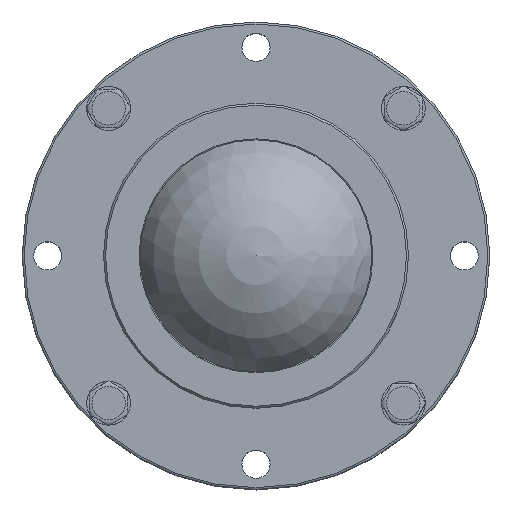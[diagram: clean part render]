
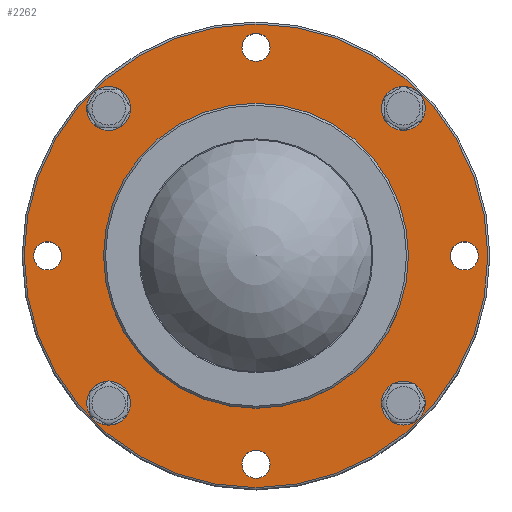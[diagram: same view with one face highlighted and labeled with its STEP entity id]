
A CAD part, top view. The second image highlights one B-rep face of the part: STEP entity #2262.
In plain terms, the highlighted planar face has unit normal (0, 0, 1).
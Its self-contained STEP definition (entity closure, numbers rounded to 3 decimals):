
#58=FACE_BOUND('',#787,.T.);
#59=FACE_BOUND('',#788,.T.);
#60=FACE_BOUND('',#789,.T.);
#61=FACE_BOUND('',#790,.T.);
#62=FACE_BOUND('',#791,.T.);
#63=FACE_BOUND('',#792,.T.);
#64=FACE_BOUND('',#793,.T.);
#65=FACE_BOUND('',#794,.T.);
#66=FACE_BOUND('',#795,.T.);
#468=PLANE('',#2542);
#606=FACE_OUTER_BOUND('',#786,.T.);
#786=EDGE_LOOP('',(#1966));
#787=EDGE_LOOP('',(#1967));
#788=EDGE_LOOP('',(#1968));
#789=EDGE_LOOP('',(#1969));
#790=EDGE_LOOP('',(#1970));
#791=EDGE_LOOP('',(#1971));
#792=EDGE_LOOP('',(#1972));
#793=EDGE_LOOP('',(#1973));
#794=EDGE_LOOP('',(#1974));
#795=EDGE_LOOP('',(#1975));
#828=CIRCLE('',#2322,10.75);
#854=CIRCLE('',#2375,10.75);
#880=CIRCLE('',#2428,10.75);
#906=CIRCLE('',#2481,10.75);
#910=CIRCLE('',#2488,6.918);
#914=CIRCLE('',#2495,6.918);
#918=CIRCLE('',#2502,6.918);
#922=CIRCLE('',#2509,6.918);
#938=CIRCLE('',#2541,75.);
#939=CIRCLE('',#2543,114.);
#980=VERTEX_POINT('',#3422);
#1018=VERTEX_POINT('',#3609);
#1056=VERTEX_POINT('',#3796);
#1094=VERTEX_POINT('',#3983);
#1098=VERTEX_POINT('',#3994);
#1102=VERTEX_POINT('',#4005);
#1106=VERTEX_POINT('',#4016);
#1110=VERTEX_POINT('',#4027);
#1126=VERTEX_POINT('',#4075);
#1127=VERTEX_POINT('',#4078);
#1192=EDGE_CURVE('',#980,#980,#828,.T.);
#1254=EDGE_CURVE('',#1018,#1018,#854,.T.);
#1316=EDGE_CURVE('',#1056,#1056,#880,.T.);
#1378=EDGE_CURVE('',#1094,#1094,#906,.T.);
#1382=EDGE_CURVE('',#1098,#1098,#910,.T.);
#1386=EDGE_CURVE('',#1102,#1102,#914,.T.);
#1390=EDGE_CURVE('',#1106,#1106,#918,.T.);
#1394=EDGE_CURVE('',#1110,#1110,#922,.T.);
#1410=EDGE_CURVE('',#1126,#1126,#938,.T.);
#1411=EDGE_CURVE('',#1127,#1127,#939,.T.);
#1966=ORIENTED_EDGE('',*,*,#1411,.F.);
#1967=ORIENTED_EDGE('',*,*,#1192,.T.);
#1968=ORIENTED_EDGE('',*,*,#1254,.T.);
#1969=ORIENTED_EDGE('',*,*,#1316,.T.);
#1970=ORIENTED_EDGE('',*,*,#1378,.T.);
#1971=ORIENTED_EDGE('',*,*,#1382,.T.);
#1972=ORIENTED_EDGE('',*,*,#1386,.T.);
#1973=ORIENTED_EDGE('',*,*,#1390,.T.);
#1974=ORIENTED_EDGE('',*,*,#1394,.T.);
#1975=ORIENTED_EDGE('',*,*,#1410,.T.);
#2262=ADVANCED_FACE('',(#606,#58,#59,#60,#61,#62,#63,#64,#65,#66),#468,
 .T.);
#2322=AXIS2_PLACEMENT_3D('',#3423,#2689,#2690);
#2375=AXIS2_PLACEMENT_3D('',#3610,#2825,#2826);
#2428=AXIS2_PLACEMENT_3D('',#3797,#2961,#2962);
#2481=AXIS2_PLACEMENT_3D('',#3984,#3097,#3098);
#2488=AXIS2_PLACEMENT_3D('',#3995,#3111,#3112);
#2495=AXIS2_PLACEMENT_3D('',#4006,#3125,#3126);
#2502=AXIS2_PLACEMENT_3D('',#4017,#3139,#3140);
#2509=AXIS2_PLACEMENT_3D('',#4028,#3153,#3154);
#2541=AXIS2_PLACEMENT_3D('',#4076,#3217,#3218);
#2542=AXIS2_PLACEMENT_3D('',#4077,#3219,#3220);
#2543=AXIS2_PLACEMENT_3D('',#4079,#3221,#3222);
#2689=DIRECTION('center_axis',(0.,0.,-1.));
#2690=DIRECTION('ref_axis',(1.,0.,0.));
#2825=DIRECTION('center_axis',(0.,0.,-1.));
#2826=DIRECTION('ref_axis',(0.,-1.,0.));
#2961=DIRECTION('center_axis',(0.,0.,-1.));
#2962=DIRECTION('ref_axis',(-1.,0.,0.));
#3097=DIRECTION('center_axis',(0.,0.,-1.));
#3098=DIRECTION('ref_axis',(0.,1.,0.));
#3111=DIRECTION('center_axis',(0.,0.,-1.));
#3112=DIRECTION('ref_axis',(0.,-1.,0.));
#3125=DIRECTION('center_axis',(0.,0.,-1.));
#3126=DIRECTION('ref_axis',(-1.,0.,0.));
#3139=DIRECTION('center_axis',(0.,0.,-1.));
#3140=DIRECTION('ref_axis',(0.,1.,0.));
#3153=DIRECTION('center_axis',(0.,0.,-1.));
#3154=DIRECTION('ref_axis',(1.,0.,0.));
#3217=DIRECTION('center_axis',(0.,0.,-1.));
#3218=DIRECTION('ref_axis',(0.,1.,0.));
#3219=DIRECTION('center_axis',(0.,0.,1.));
#3220=DIRECTION('ref_axis',(1.,0.,0.));
#3221=DIRECTION('center_axis',(0.,0.,-1.));
#3222=DIRECTION('ref_axis',(0.,1.,0.));
#3422=CARTESIAN_POINT('',(83.23,-72.48,124.));
#3423=CARTESIAN_POINT('Origin',(72.48,-72.48,124.));
#3609=CARTESIAN_POINT('',(-72.48,-83.23,124.));
#3610=CARTESIAN_POINT('Origin',(-72.48,-72.48,124.));
#3796=CARTESIAN_POINT('',(-83.23,72.48,124.));
#3797=CARTESIAN_POINT('Origin',(-72.48,72.48,124.));
#3983=CARTESIAN_POINT('',(72.48,83.23,124.));
#3984=CARTESIAN_POINT('Origin',(72.48,72.48,124.));
#3994=CARTESIAN_POINT('',(102.5,-6.918,124.));
#3995=CARTESIAN_POINT('Origin',(102.5,0.,124.));
#4005=CARTESIAN_POINT('',(-6.918,-102.5,124.));
#4006=CARTESIAN_POINT('Origin',(0.,-102.5,124.));
#4016=CARTESIAN_POINT('',(-102.5,6.918,124.));
#4017=CARTESIAN_POINT('Origin',(-102.5,0.,124.));
#4027=CARTESIAN_POINT('',(6.918,102.5,124.));
#4028=CARTESIAN_POINT('Origin',(0.,102.5,124.));
#4075=CARTESIAN_POINT('',(0.,75.,124.));
#4076=CARTESIAN_POINT('Origin',(0.,0.,124.));
#4077=CARTESIAN_POINT('Origin',(0.,112.209,124.));
#4078=CARTESIAN_POINT('',(0.,114.,124.));
#4079=CARTESIAN_POINT('Origin',(0.,0.,124.));
